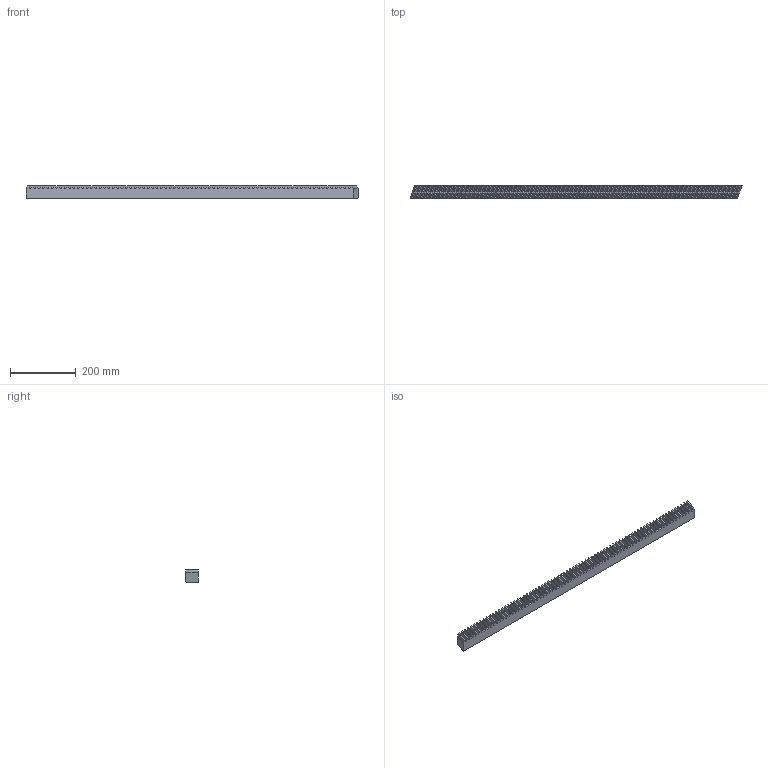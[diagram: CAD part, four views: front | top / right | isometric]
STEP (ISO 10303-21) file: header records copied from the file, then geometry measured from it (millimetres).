
FILE_DESCRIPTION(('STEP AP203'),'1');
FILE_NAME('143-040-910.stp','2021-06-23T10:37:24',('TraceParts'),('TraceParts S.A.'),'Spatial InterOp 3D',' ',' ');
FILE_SCHEMA(('CONFIG_CONTROL_DESIGN'));
Length unit declared in the file: millimetre
Products named in the file (1): 1
Bounding box: 1013.05 x 39 x 39 mm (x, y, z)
Volume: 1352758 mm3; surface area: 187837.9 mm2
Topology: 1 solids, 1 shells, 307 faces, 915 edges, 610 vertices
Faces by surface type: plane 307
Entity records: 10133 total; most frequent: CARTESIAN_POINT 1833, ORIENTED_EDGE 1830, DIRECTION 1531, EDGE_CURVE 915, LINE 915, VECTOR 915, VERTEX_POINT 610, AXIS2_PLACEMENT_3D 308
